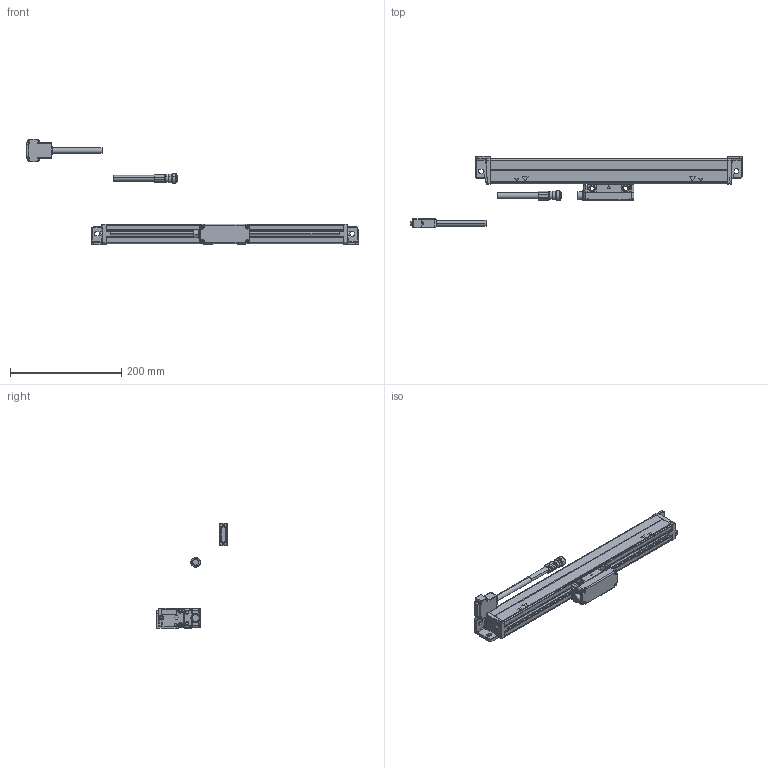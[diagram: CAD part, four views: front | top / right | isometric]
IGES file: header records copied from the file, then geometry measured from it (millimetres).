
Start section: Elysium IGES Interface
Global section: file name: 74H\\Utsu119s\kiyo_cad\data\3D\AT103\HP掲載用_201710\IGES\AT103_AT203-300.igs; native system: Creo Elements/Direct Modeling 18.1B  29-Sep-2012; preprocessor: Creo Element/Direct IGES_3D V2.2; author: Unknown; organization: Unknown; date: 20180105.124820; units: millimetre
Bounding box: 595.83 x 129 x 190.1 mm (x, y, z)
Volume: 807078.5 mm3; surface area: 127106.4 mm2
Topology: 4 solids, 8 shells, 1072 faces, 2607 edges, 1597 vertices
Faces by surface type: bspline 1072
